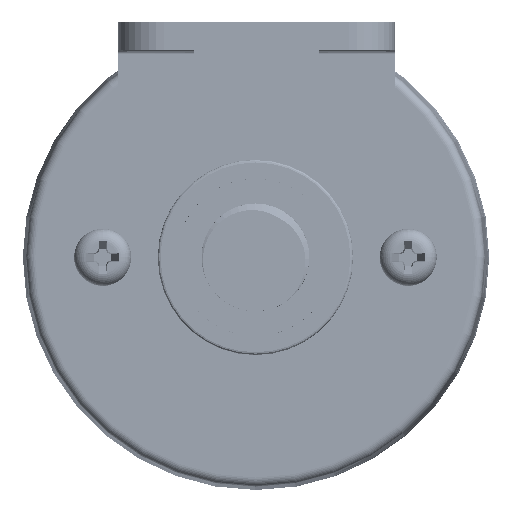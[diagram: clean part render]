
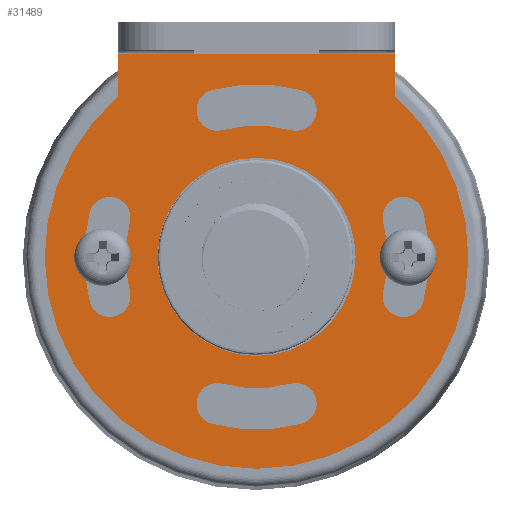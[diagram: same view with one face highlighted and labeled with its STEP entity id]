
A CAD part, front view. The second image highlights one B-rep face of the part: STEP entity #31489.
In plain terms, the highlighted planar face has unit normal (0, -1, 0).
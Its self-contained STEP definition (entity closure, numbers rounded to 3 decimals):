
#30689=CARTESIAN_POINT('',(0.,0.,0.));
#30690=DIRECTION('',(0.,-1.,0.));
#30691=DIRECTION('',(1.,0.,0.));
#30692=AXIS2_PLACEMENT_3D('',#30689,#30690,#30691);
#30694=CARTESIAN_POINT('',(0.,0.,0.));
#30695=DIRECTION('',(0.,-1.,0.));
#30696=DIRECTION('',(-1.,0.,0.));
#30697=AXIS2_PLACEMENT_3D('',#30694,#30695,#30696);
#30699=CARTESIAN_POINT('',(0.,0.,0.));
#30700=DIRECTION('',(0.,1.,0.));
#30701=DIRECTION('',(0.259,0.,-0.966));
#30702=AXIS2_PLACEMENT_3D('',#30699,#30700,#30701);
#30704=CARTESIAN_POINT('',(-4.271,0.,-15.938));
#30705=DIRECTION('',(0.,-1.,0.));
#30706=DIRECTION('',(0.259,0.,0.966));
#30707=AXIS2_PLACEMENT_3D('',#30704,#30705,#30706);
#30709=CARTESIAN_POINT('',(0.,0.,0.));
#30710=DIRECTION('',(0.,-1.,0.));
#30711=DIRECTION('',(-0.259,0.,-0.966));
#30712=AXIS2_PLACEMENT_3D('',#30709,#30710,#30711);
#30714=CARTESIAN_POINT('',(4.271,0.,-15.938));
#30715=DIRECTION('',(0.,-1.,0.));
#30716=DIRECTION('',(0.259,0.,-0.966));
#30717=AXIS2_PLACEMENT_3D('',#30714,#30715,#30716);
#30719=CARTESIAN_POINT('',(-15.938,0.,-4.271));
#30720=DIRECTION('',(0.,-1.,0.));
#30721=DIRECTION('',(-0.966,0.,-0.259));
#30722=AXIS2_PLACEMENT_3D('',#30719,#30720,#30721);
#30724=CARTESIAN_POINT('',(0.,0.,0.));
#30725=DIRECTION('',(0.,1.,0.));
#30726=DIRECTION('',(-0.966,0.,-0.259));
#30727=AXIS2_PLACEMENT_3D('',#30724,#30725,#30726);
#30729=CARTESIAN_POINT('',(-15.938,0.,4.271));
#30730=DIRECTION('',(0.,-1.,0.));
#30731=DIRECTION('',(0.966,0.,-0.259));
#30732=AXIS2_PLACEMENT_3D('',#30729,#30730,#30731);
#30734=CARTESIAN_POINT('',(0.,0.,0.));
#30735=DIRECTION('',(0.,-1.,0.));
#30736=DIRECTION('',(-0.966,0.,0.259));
#30737=AXIS2_PLACEMENT_3D('',#30734,#30735,#30736);
#30739=CARTESIAN_POINT('',(-4.271,0.,15.938));
#30740=DIRECTION('',(0.,-1.,0.));
#30741=DIRECTION('',(-0.259,0.,0.966));
#30742=AXIS2_PLACEMENT_3D('',#30739,#30740,#30741);
#30744=CARTESIAN_POINT('',(0.,0.,0.));
#30745=DIRECTION('',(0.,1.,0.));
#30746=DIRECTION('',(-0.259,0.,0.966));
#30747=AXIS2_PLACEMENT_3D('',#30744,#30745,#30746);
#30749=CARTESIAN_POINT('',(4.271,0.,15.938));
#30750=DIRECTION('',(0.,-1.,0.));
#30751=DIRECTION('',(-0.259,0.,-0.966));
#30752=AXIS2_PLACEMENT_3D('',#30749,#30750,#30751);
#30754=CARTESIAN_POINT('',(0.,0.,0.));
#30755=DIRECTION('',(0.,-1.,0.));
#30756=DIRECTION('',(0.259,0.,0.966));
#30757=AXIS2_PLACEMENT_3D('',#30754,#30755,#30756);
#30759=CARTESIAN_POINT('',(15.938,0.,4.271));
#30760=DIRECTION('',(0.,-1.,0.));
#30761=DIRECTION('',(0.966,0.,0.259));
#30762=AXIS2_PLACEMENT_3D('',#30759,#30760,#30761);
#30764=CARTESIAN_POINT('',(0.,0.,0.));
#30765=DIRECTION('',(0.,1.,0.));
#30766=DIRECTION('',(0.966,0.,0.259));
#30767=AXIS2_PLACEMENT_3D('',#30764,#30765,#30766);
#30769=CARTESIAN_POINT('',(15.938,0.,-4.271));
#30770=DIRECTION('',(0.,-1.,0.));
#30771=DIRECTION('',(-0.966,0.,0.259));
#30772=AXIS2_PLACEMENT_3D('',#30769,#30770,#30771);
#30774=CARTESIAN_POINT('',(0.,0.,0.));
#30775=DIRECTION('',(0.,-1.,0.));
#30776=DIRECTION('',(0.966,0.,-0.259));
#30777=AXIS2_PLACEMENT_3D('',#30774,#30775,#30776);
#30779=DIRECTION('',(-1.,0.,0.));
#30780=VECTOR('',#30779,13.5);
#30781=CARTESIAN_POINT('',(6.75,0.,-22.));
#30782=LINE('',#30781,#30780);
#30783=DIRECTION('',(0.,0.,1.));
#30784=VECTOR('',#30783,4.564);
#30785=CARTESIAN_POINT('',(-15.,0.,-22.));
#30786=LINE('',#30785,#30784);
#30787=CARTESIAN_POINT('',(0.,0.,0.));
#30788=DIRECTION('',(0.,1.,0.));
#30789=DIRECTION('',(-0.652,0.,-0.758));
#30790=AXIS2_PLACEMENT_3D('',#30787,#30788,#30789);
#30792=DIRECTION('',(0.,0.,-1.));
#30793=VECTOR('',#30792,4.564);
#30794=CARTESIAN_POINT('',(15.,0.,-17.436));
#30795=LINE('',#30794,#30793);
#30869=DIRECTION('',(1.,0.,0.));
#30870=VECTOR('',#30869,8.25);
#30871=CARTESIAN_POINT('',(6.75,0.,-22.));
#30872=LINE('',#30871,#30870);
#30887=DIRECTION('',(1.,0.,0.));
#30888=VECTOR('',#30887,8.25);
#30889=CARTESIAN_POINT('',(-15.,0.,-22.));
#30890=LINE('',#30889,#30888);
#31204=CARTESIAN_POINT('',(10.75,0.,0.));
#31205=CARTESIAN_POINT('',(-10.75,0.,0.));
#31206=VERTEX_POINT('',#31204);
#31207=VERTEX_POINT('',#31205);
#31208=CARTESIAN_POINT('',(3.688,0.,-13.764));
#31209=CARTESIAN_POINT('',(-3.688,0.,-13.764));
#31210=VERTEX_POINT('',#31208);
#31211=VERTEX_POINT('',#31209);
#31212=CARTESIAN_POINT('',(-4.853,0.,-18.111));
#31213=VERTEX_POINT('',#31212);
#31214=CARTESIAN_POINT('',(4.853,0.,-18.111));
#31215=VERTEX_POINT('',#31214);
#31216=CARTESIAN_POINT('',(-18.111,0.,-4.853));
#31217=CARTESIAN_POINT('',(-13.764,0.,-3.688));
#31218=VERTEX_POINT('',#31216);
#31219=VERTEX_POINT('',#31217);
#31220=CARTESIAN_POINT('',(-13.764,0.,3.688));
#31221=VERTEX_POINT('',#31220);
#31222=CARTESIAN_POINT('',(-18.111,0.,4.853));
#31223=VERTEX_POINT('',#31222);
#31224=CARTESIAN_POINT('',(-4.853,0.,18.111));
#31225=CARTESIAN_POINT('',(-3.688,0.,13.764));
#31226=VERTEX_POINT('',#31224);
#31227=VERTEX_POINT('',#31225);
#31228=CARTESIAN_POINT('',(3.688,0.,13.764));
#31229=VERTEX_POINT('',#31228);
#31230=CARTESIAN_POINT('',(4.853,0.,18.111));
#31231=VERTEX_POINT('',#31230);
#31232=CARTESIAN_POINT('',(18.111,0.,4.853));
#31233=CARTESIAN_POINT('',(13.764,0.,3.688));
#31234=VERTEX_POINT('',#31232);
#31235=VERTEX_POINT('',#31233);
#31236=CARTESIAN_POINT('',(13.764,0.,-3.688));
#31237=VERTEX_POINT('',#31236);
#31238=CARTESIAN_POINT('',(18.111,0.,-4.853));
#31239=VERTEX_POINT('',#31238);
#31240=CARTESIAN_POINT('',(-15.,0.,-17.436));
#31241=CARTESIAN_POINT('',(15.,0.,-17.436));
#31242=VERTEX_POINT('',#31240);
#31243=VERTEX_POINT('',#31241);
#31248=CARTESIAN_POINT('',(15.,0.,-22.));
#31249=VERTEX_POINT('',#31248);
#31250=CARTESIAN_POINT('',(-15.,0.,-22.));
#31251=VERTEX_POINT('',#31250);
#31268=CARTESIAN_POINT('',(6.75,0.,-22.));
#31269=CARTESIAN_POINT('',(-6.75,0.,-22.));
#31270=VERTEX_POINT('',#31268);
#31271=VERTEX_POINT('',#31269);
#31426=CARTESIAN_POINT('',(0.,0.,0.));
#31427=DIRECTION('',(0.,1.,0.));
#31428=DIRECTION('',(1.,0.,0.));
#31429=AXIS2_PLACEMENT_3D('',#31426,#31427,#31428);
#31430=PLANE('',#31429);
#31432=ORIENTED_EDGE('',*,*,#31431,.F.);
#31434=ORIENTED_EDGE('',*,*,#31433,.T.);
#31436=ORIENTED_EDGE('',*,*,#31435,.F.);
#31438=ORIENTED_EDGE('',*,*,#31437,.T.);
#31440=ORIENTED_EDGE('',*,*,#31439,.T.);
#31442=ORIENTED_EDGE('',*,*,#31441,.T.);
#31443=EDGE_LOOP('',(#31432,#31434,#31436,#31438,#31440,#31442));
#31444=FACE_OUTER_BOUND('',#31443,.F.);
#31446=ORIENTED_EDGE('',*,*,#31445,.T.);
#31448=ORIENTED_EDGE('',*,*,#31447,.T.);
#31450=ORIENTED_EDGE('',*,*,#31449,.T.);
#31452=ORIENTED_EDGE('',*,*,#31451,.T.);
#31453=EDGE_LOOP('',(#31446,#31448,#31450,#31452));
#31454=FACE_BOUND('',#31453,.F.);
#31456=ORIENTED_EDGE('',*,*,#31455,.T.);
#31458=ORIENTED_EDGE('',*,*,#31457,.T.);
#31460=ORIENTED_EDGE('',*,*,#31459,.T.);
#31462=ORIENTED_EDGE('',*,*,#31461,.T.);
#31463=EDGE_LOOP('',(#31456,#31458,#31460,#31462));
#31464=FACE_BOUND('',#31463,.F.);
#31466=ORIENTED_EDGE('',*,*,#31465,.T.);
#31468=ORIENTED_EDGE('',*,*,#31467,.T.);
#31470=ORIENTED_EDGE('',*,*,#31469,.T.);
#31472=ORIENTED_EDGE('',*,*,#31471,.T.);
#31473=EDGE_LOOP('',(#31466,#31468,#31470,#31472));
#31474=FACE_BOUND('',#31473,.F.);
#31476=ORIENTED_EDGE('',*,*,#31475,.T.);
#31478=ORIENTED_EDGE('',*,*,#31477,.T.);
#31480=ORIENTED_EDGE('',*,*,#31479,.T.);
#31482=ORIENTED_EDGE('',*,*,#31481,.T.);
#31483=EDGE_LOOP('',(#31476,#31478,#31480,#31482));
#31484=FACE_BOUND('',#31483,.F.);
#31485=ORIENTED_EDGE('',*,*,#31406,.T.);
#31486=ORIENTED_EDGE('',*,*,#31420,.T.);
#31487=EDGE_LOOP('',(#31485,#31486));
#31488=FACE_BOUND('',#31487,.F.);
#31489=ADVANCED_FACE('',(#31444,#31454,#31464,#31474,#31484,#31488),#31430,.F.);
#30693=CIRCLE('',#30692,10.75);
#30698=CIRCLE('',#30697,10.75);
#30703=CIRCLE('',#30702,14.25);
#30708=CIRCLE('',#30707,2.25);
#30713=CIRCLE('',#30712,18.75);
#30718=CIRCLE('',#30717,2.25);
#30723=CIRCLE('',#30722,2.25);
#30728=CIRCLE('',#30727,14.25);
#30733=CIRCLE('',#30732,2.25);
#30738=CIRCLE('',#30737,18.75);
#30743=CIRCLE('',#30742,2.25);
#30748=CIRCLE('',#30747,14.25);
#30753=CIRCLE('',#30752,2.25);
#30758=CIRCLE('',#30757,18.75);
#30763=CIRCLE('',#30762,2.25);
#30768=CIRCLE('',#30767,14.25);
#30773=CIRCLE('',#30772,2.25);
#30778=CIRCLE('',#30777,18.75);
#30791=CIRCLE('',#30790,23.);
#31406=EDGE_CURVE('',#31206,#31207,#30693,.T.);
#31420=EDGE_CURVE('',#31207,#31206,#30698,.T.);
#31431=EDGE_CURVE('',#31270,#31249,#30872,.T.);
#31433=EDGE_CURVE('',#31270,#31271,#30782,.T.);
#31435=EDGE_CURVE('',#31251,#31271,#30890,.T.);
#31437=EDGE_CURVE('',#31251,#31242,#30786,.T.);
#31439=EDGE_CURVE('',#31242,#31243,#30791,.T.);
#31441=EDGE_CURVE('',#31243,#31249,#30795,.T.);
#31445=EDGE_CURVE('',#31210,#31211,#30703,.T.);
#31447=EDGE_CURVE('',#31211,#31213,#30708,.T.);
#31449=EDGE_CURVE('',#31213,#31215,#30713,.T.);
#31451=EDGE_CURVE('',#31215,#31210,#30718,.T.);
#31455=EDGE_CURVE('',#31218,#31219,#30723,.T.);
#31457=EDGE_CURVE('',#31219,#31221,#30728,.T.);
#31459=EDGE_CURVE('',#31221,#31223,#30733,.T.);
#31461=EDGE_CURVE('',#31223,#31218,#30738,.T.);
#31465=EDGE_CURVE('',#31226,#31227,#30743,.T.);
#31467=EDGE_CURVE('',#31227,#31229,#30748,.T.);
#31469=EDGE_CURVE('',#31229,#31231,#30753,.T.);
#31471=EDGE_CURVE('',#31231,#31226,#30758,.T.);
#31475=EDGE_CURVE('',#31234,#31235,#30763,.T.);
#31477=EDGE_CURVE('',#31235,#31237,#30768,.T.);
#31479=EDGE_CURVE('',#31237,#31239,#30773,.T.);
#31481=EDGE_CURVE('',#31239,#31234,#30778,.T.);
